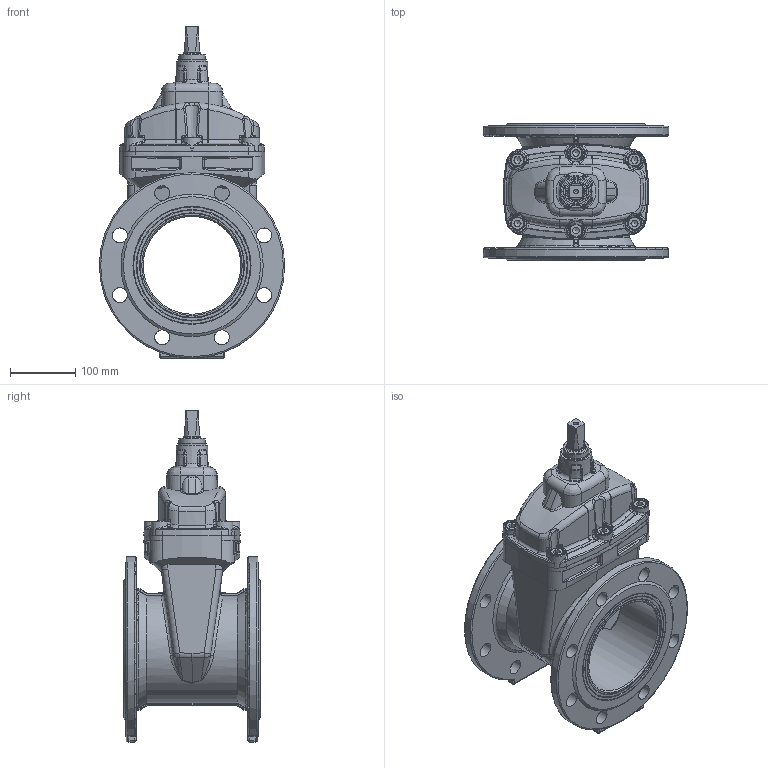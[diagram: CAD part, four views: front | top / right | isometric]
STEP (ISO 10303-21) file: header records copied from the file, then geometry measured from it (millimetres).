
FILE_DESCRIPTION(/* description */ (''),/* implementation_level */ '2;1');
FILE_NAME(/* name */ 'F4-DN150PN16.stp',/* time_stamp */ '2024-08-01T08:19:38+07:00',/* author */ ('Eva'),/* organization */ (''),/* preprocessor_version */ 'ST-DEVELOPER v20',/* originating_system */ 'Autodesk Inventor 2025',/* authorisation */ '');
FILE_SCHEMA (('AUTOMOTIVE_DESIGN { 1 0 10303 214 3 1 1 }'));
Length unit declared in the file: metre
Products named in the file (7): F4-DN150PN16; ·§ёЗ DN150PN16(YZ45X06302-02-00 
QT450-10); ·§ёЛ DN150PN16(YZ45X06302-04-00 
); Ц№НЖВЭДё DN150PN16(YZ4
5X06302-09-00 ); M12 ДЪБщЅЗФІЦщН·ВЭ¶¤ 
GB T 70.1-2000(M12ЎБ25); ·АіѕГЬ·вИ¦ DN15
0PN16(YZ45X06302-10-00 NBR); DN150-F4 -КдИл
Assembly tree (11 placements, depth 2):
  F4-DN150PN16
    ·§ёЗ DN150PN16(YZ45X06302-02-00 
QT450-10)
    ·§ёЛ DN150PN16(YZ45X06302-04-00 
)
    Ц№НЖВЭДё DN150PN16(YZ4
5X06302-09-00 )
    M12 ДЪБщЅЗФІЦщН·ВЭ¶¤ 
GB T 70.1-2000(M12ЎБ25)  x6
    ·АіѕГЬ·вИ¦ DN15
0PN16(YZ45X06302-10-00 NBR)
    DN150-F4 -КдИл
Bounding box: 284.82 x 210.01 x 510.46 mm (x, y, z)
Volume: 3368670.6 mm3; surface area: 716739.9 mm2
Topology: 11 solids, 15 shells, 1415 faces, 3447 edges, 2016 vertices
Faces by surface type: bspline 499, cylinder 341, plane 296, torus 154, cone 101, sphere 24
Full cylindrical faces by diameter (mm): 6.8 x1, 10.2 x6, 12 x6, 14 x6, 18.27 x6, 23 x16, 26 x2, 27 x1, 35.5 x1, 40 x1, 44 x1, 150.5 x1, 284.806 x2
Entity records: 73897 total; most frequent: CARTESIAN_POINT 45657, ORIENTED_EDGE 6402, DIRECTION 5289, EDGE_CURVE 3201, AXIS2_PLACEMENT_3D 2295, VERTEX_POINT 1904, EDGE_LOOP 1385, FACE_OUTER_BOUND 1325
